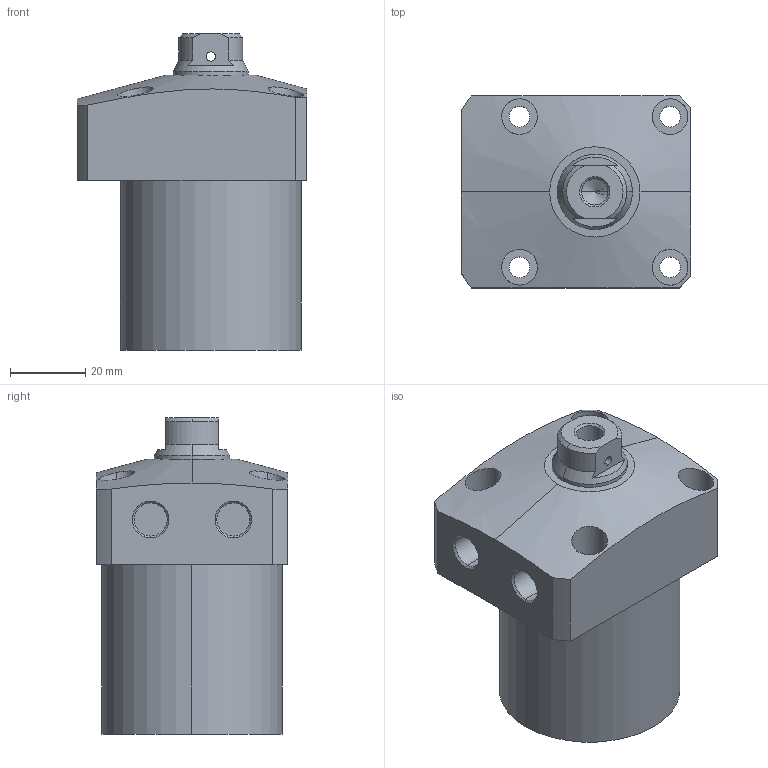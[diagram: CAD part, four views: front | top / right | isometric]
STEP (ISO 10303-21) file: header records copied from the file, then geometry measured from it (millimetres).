
FILE_DESCRIPTION (( 'STEP AP203' ), '1' );
FILE_NAME ('CLL-0480-CB-35.STEP', '2017-05-09T03:09:54', ( '' ), ( '' ), 'SwSTEP 2.0', 'SolidWorks 2015', '' );
FILE_SCHEMA (( 'CONFIG_CONTROL_DESIGN' ));
Length unit declared in the file: millimetre
Products named in the file (1): CLL-0480-CB-35
Bounding box: 61 x 51 x 84 mm (x, y, z)
Volume: 155999.9 mm3; surface area: 21387.6 mm2
Topology: 1 solids, 1 shells, 76 faces, 181 edges, 116 vertices
Faces by surface type: cylinder 39, plane 22, cone 15
Entity records: 2695 total; most frequent: CARTESIAN_POINT 818, DIRECTION 386, ORIENTED_EDGE 358, EDGE_CURVE 179, AXIS2_PLACEMENT_3D 158, VERTEX_POINT 116, EDGE_LOOP 99, CIRCLE 81
